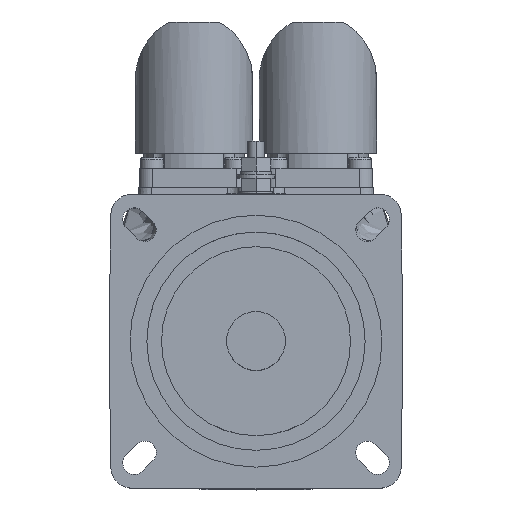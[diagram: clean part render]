
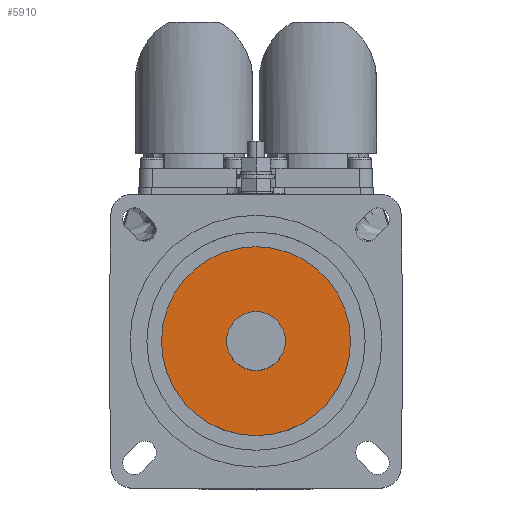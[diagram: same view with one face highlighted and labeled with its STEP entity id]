
A CAD part, top view. The second image highlights one B-rep face of the part: STEP entity #5910.
In plain terms, the highlighted planar face has unit normal (0, 0, 1).
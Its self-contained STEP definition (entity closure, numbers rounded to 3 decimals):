
#15 = VERTEX_POINT ( 'NONE', #385 ) ;
#61 = VERTEX_POINT ( 'NONE', #430 ) ;
#62 = VERTEX_POINT ( 'NONE', #431 ) ;
#385 = CARTESIAN_POINT ( 'NONE',  ( 7., 0., 7.5 ) ) ;
#430 = CARTESIAN_POINT ( 'NONE',  ( 22.5, 0., 7.5 ) ) ;
#431 = CARTESIAN_POINT ( 'NONE',  ( -22.5, 0., 7.5 ) ) ;
#2393 = ORIENTED_EDGE ( 'NONE', *, *, #5449, .F. ) ;
#2394 = ORIENTED_EDGE ( 'NONE', *, *, #5322, .F. ) ;
#2395 = ORIENTED_EDGE ( 'NONE', *, *, #5451, .T. ) ;
#2396 = ORIENTED_EDGE ( 'NONE', *, *, #5321, .T. ) ;
#3288 = EDGE_LOOP ( 'NONE', ( #2395, #2396 ) ) ;
#3346 = EDGE_LOOP ( 'NONE', ( #2393, #2394 ) ) ;
#5321 = EDGE_CURVE ( 'NONE', #62, #61, #10236, .T. ) ;
#5322 = EDGE_CURVE ( 'NONE', #6753, #15, #10237, .T. ) ;
#5449 = EDGE_CURVE ( 'NONE', #15, #6753, #15046, .T. ) ;
#5451 = EDGE_CURVE ( 'NONE', #61, #62, #15049, .T. ) ;
#5910 = ADVANCED_FACE ( 'NONE', ( #15722, #15726 ), #16852, .T. ) ;
#6753 = VERTEX_POINT ( 'NONE', #16917 ) ;
#10236 = CIRCLE ( 'NONE', #11948, 22.5 ) ;
#10237 = CIRCLE ( 'NONE', #11946, 7. ) ;
#11946 = AXIS2_PLACEMENT_3D ( 'NONE', #13619, #13620, #13621 ) ;
#11948 = AXIS2_PLACEMENT_3D ( 'NONE', #13616, #13617, #13618 ) ;
#11982 = AXIS2_PLACEMENT_3D ( 'NONE', #14039, #14041, #14042 ) ;
#11983 = AXIS2_PLACEMENT_3D ( 'NONE', #14027, #14035, #14036 ) ;
#12262 = AXIS2_PLACEMENT_3D ( 'NONE', #16851, #16853, #16854 ) ;
#13616 = CARTESIAN_POINT ( 'NONE',  ( 0., 0., 7.5 ) ) ;
#13617 = DIRECTION ( 'NONE',  ( 0., 0., 1. ) ) ;
#13618 = DIRECTION ( 'NONE',  ( 1., 0., 0. ) ) ;
#13619 = CARTESIAN_POINT ( 'NONE',  ( 0., 0., 7.5 ) ) ;
#13620 = DIRECTION ( 'NONE',  ( 0., 0., 1. ) ) ;
#13621 = DIRECTION ( 'NONE',  ( 1., 0., 0. ) ) ;
#14027 = CARTESIAN_POINT ( 'NONE',  ( 0., 0., 7.5 ) ) ;
#14035 = DIRECTION ( 'NONE',  ( 0., 0., 1. ) ) ;
#14036 = DIRECTION ( 'NONE',  ( 1., 0., 0. ) ) ;
#14039 = CARTESIAN_POINT ( 'NONE',  ( 0., 0., 7.5 ) ) ;
#14041 = DIRECTION ( 'NONE',  ( 0., 0., 1. ) ) ;
#14042 = DIRECTION ( 'NONE',  ( 1., 0., 0. ) ) ;
#15046 = CIRCLE ( 'NONE', #11983, 7. ) ;
#15049 = CIRCLE ( 'NONE', #11982, 22.5 ) ;
#15722 = FACE_BOUND ( 'NONE', #3346, .T. ) ;
#15726 = FACE_OUTER_BOUND ( 'NONE', #3288, .T. ) ;
#16851 = CARTESIAN_POINT ( 'NONE',  ( 0., 22.5, 7.5 ) ) ;
#16852 = PLANE ( 'NONE',  #12262 ) ;
#16853 = DIRECTION ( 'NONE',  ( 0., 0., 1. ) ) ;
#16854 = DIRECTION ( 'NONE',  ( 1., 0., 0. ) ) ;
#16917 = CARTESIAN_POINT ( 'NONE',  ( -7., 0., 7.5 ) ) ;
